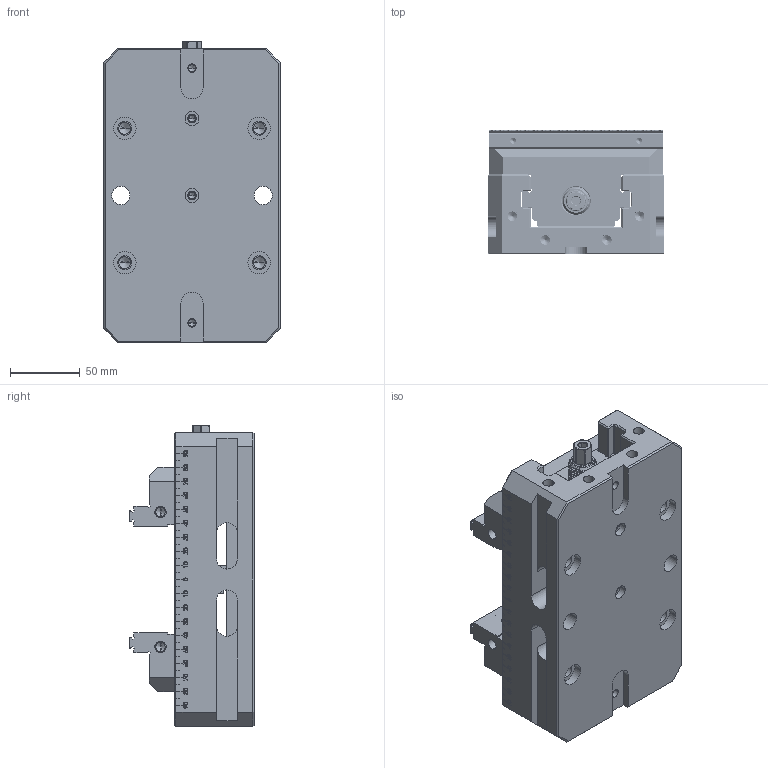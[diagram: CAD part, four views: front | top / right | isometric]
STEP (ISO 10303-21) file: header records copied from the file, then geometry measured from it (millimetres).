
FILE_DESCRIPTION (( 'STEP AP214' ), '1' );
FILE_NAME ('05-0004.STEP', '2022-11-29T18:29:13', ( '' ), ( '' ), 'SwSTEP 2.0', 'SolidWorks 2021', '' );
FILE_SCHEMA (( 'AUTOMOTIVE_DESIGN' ));
Length unit declared in the file: inch
Products named in the file (1): 05-0004
Bounding box: 126 x 89 x 215 mm (x, y, z)
Volume: 1239074.7 mm3; surface area: 241861.9 mm2
Topology: 17 solids, 17 shells, 3671 faces, 10595 edges, 7337 vertices
Faces by surface type: plane 2106, bspline 729, cylinder 708, cone 128
Entity records: 227276 total; most frequent: CARTESIAN_POINT 90305, ORIENTED_EDGE 21034, DIRECTION 14355, EDGE_CURVE 10517, VERTEX_POINT 7337, LINE 6529, VECTOR 6529, EDGE_LOOP 4186
